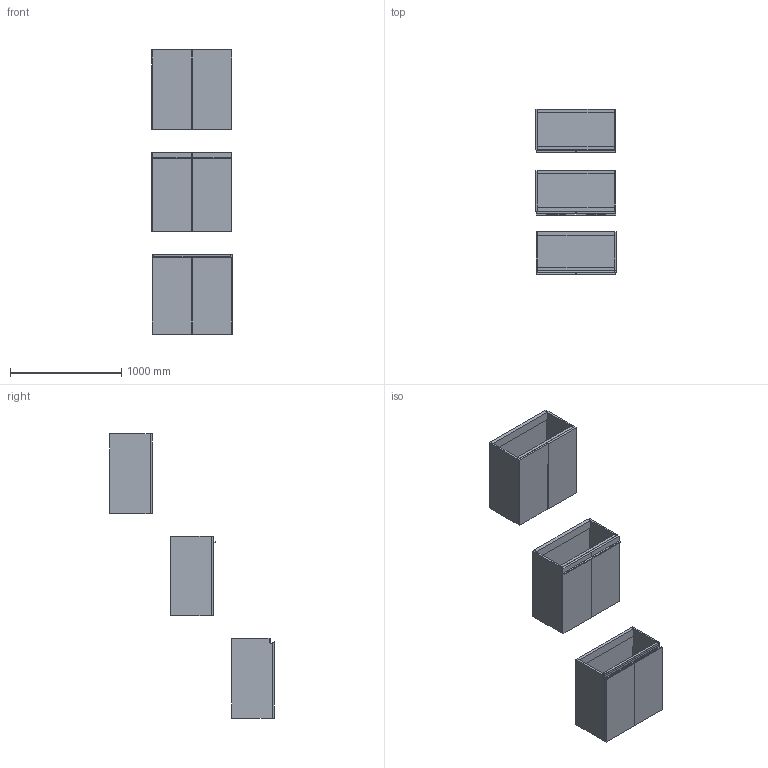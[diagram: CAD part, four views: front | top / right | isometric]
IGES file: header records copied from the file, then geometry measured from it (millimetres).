
Start section: Data from Parasolid IGES Translator 19.0.9, Copyright(c) 2006 Siemens PL M Software. All Rights Reserved.
Global section: file name: noorth-SI-H 72 D 38,8 W 72_8597.igs; native system: By Siemens PLM Incorporated; preprocessor: XPlus GENERIC/IGES 19.0.9; author: Noname; organization: Noname; date: 20200601.115219; units: metre
Bounding box: 721 x 1485.1 x 2560.01 mm (x, y, z)
Volume: 76338484.7 mm3; surface area: 11886832.4 mm2
Topology: 27 solids, 27 shells, 264 faces, 574 edges, 340 vertices
Faces by surface type: plane 180, cylinder 52, sphere 20, torus 12
